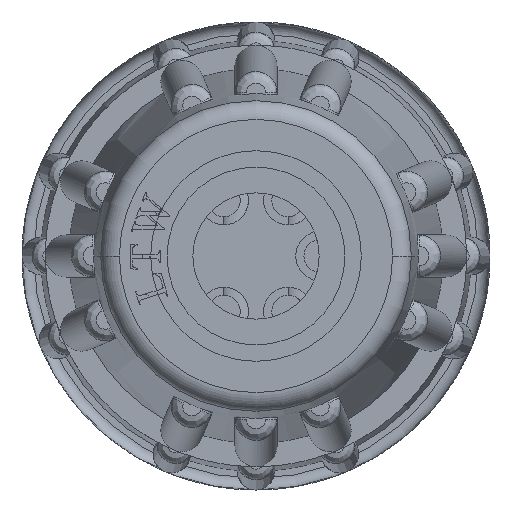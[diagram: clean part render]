
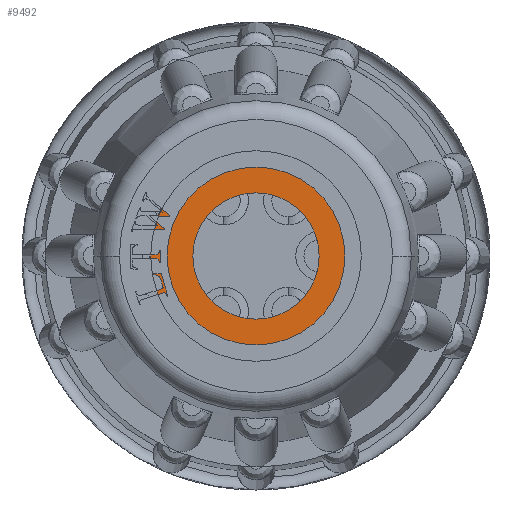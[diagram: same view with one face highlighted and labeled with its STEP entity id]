
A CAD part, left-side view. The second image highlights one B-rep face of the part: STEP entity #9492.
In plain terms, the highlighted planar face has unit normal (-1, 0, 0).
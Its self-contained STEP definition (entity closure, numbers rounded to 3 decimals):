
#1273=CARTESIAN_POINT('',(0.15,0.,0.));
#1274=DIRECTION('',(-1.,0.,0.));
#1275=DIRECTION('',(0.,-1.,0.));
#1276=AXIS2_PLACEMENT_3D('',#1273,#1274,#1275);
#1278=CARTESIAN_POINT('',(0.15,0.,0.));
#1279=DIRECTION('',(-1.,0.,0.));
#1280=DIRECTION('',(0.,1.,0.));
#1281=AXIS2_PLACEMENT_3D('',#1278,#1279,#1280);
#1283=CARTESIAN_POINT('',(0.15,0.,0.));
#1284=DIRECTION('',(1.,0.,0.));
#1285=DIRECTION('',(0.,-1.,0.));
#1286=AXIS2_PLACEMENT_3D('',#1283,#1284,#1285);
#1288=CARTESIAN_POINT('',(0.15,0.,0.));
#1289=DIRECTION('',(1.,0.,0.));
#1290=DIRECTION('',(0.,1.,0.));
#1291=AXIS2_PLACEMENT_3D('',#1288,#1289,#1290);
#6445=CARTESIAN_POINT('',(0.15,-2.7,0.));
#6446=CARTESIAN_POINT('',(0.15,2.7,0.));
#6447=VERTEX_POINT('',#6445);
#6448=VERTEX_POINT('',#6446);
#7266=CARTESIAN_POINT('',(0.15,-4.5,0.));
#7267=CARTESIAN_POINT('',(0.15,4.5,0.));
#7268=VERTEX_POINT('',#7266);
#7269=VERTEX_POINT('',#7267);
#9477=CARTESIAN_POINT('',(0.15,0.,0.));
#9478=DIRECTION('',(1.,0.,0.));
#9479=DIRECTION('',(0.,-1.,0.));
#9480=AXIS2_PLACEMENT_3D('',#9477,#9478,#9479);
#9481=PLANE('',#9480);
#9482=ORIENTED_EDGE('',*,*,#9463,.T.);
#9483=ORIENTED_EDGE('',*,*,#9445,.T.);
#9484=EDGE_LOOP('',(#9482,#9483));
#9485=FACE_OUTER_BOUND('',#9484,.F.);
#9487=ORIENTED_EDGE('',*,*,#9486,.T.);
#9489=ORIENTED_EDGE('',*,*,#9488,.T.);
#9490=EDGE_LOOP('',(#9487,#9489));
#9491=FACE_BOUND('',#9490,.F.);
#9492=ADVANCED_FACE('',(#9485,#9491),#9481,.F.);
#1277=CIRCLE('',#1276,2.7);
#1282=CIRCLE('',#1281,2.7);
#1287=CIRCLE('',#1286,4.5);
#1292=CIRCLE('',#1291,4.5);
#9445=EDGE_CURVE('',#7269,#7268,#1292,.T.);
#9463=EDGE_CURVE('',#7268,#7269,#1287,.T.);
#9486=EDGE_CURVE('',#6447,#6448,#1277,.T.);
#9488=EDGE_CURVE('',#6448,#6447,#1282,.T.);
